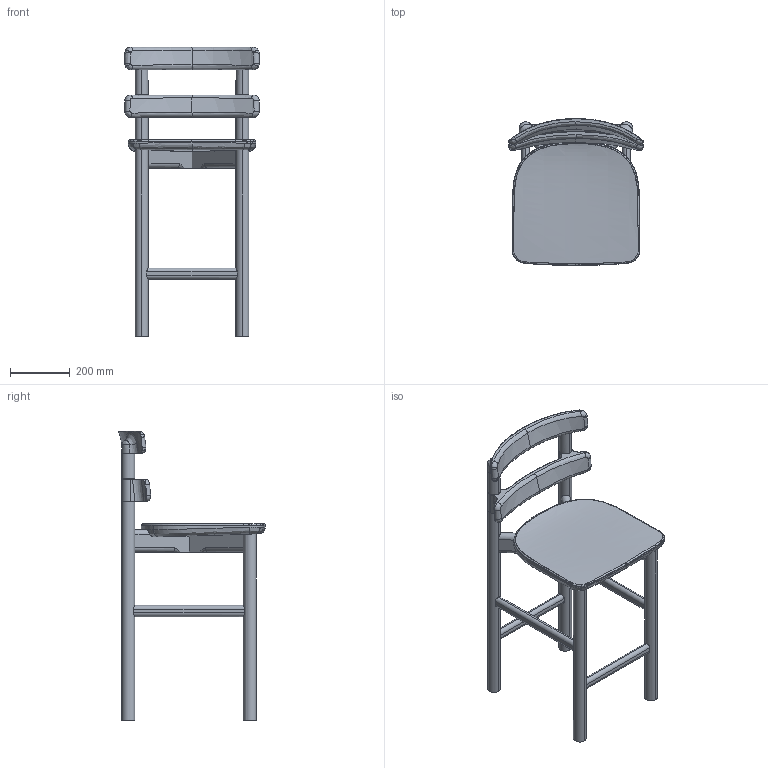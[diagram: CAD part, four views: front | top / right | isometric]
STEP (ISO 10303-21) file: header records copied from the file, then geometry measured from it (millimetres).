
FILE_DESCRIPTION(/* description */ (''),/* implementation_level */ '2;1');
FILE_NAME(/* name */ 'SISTA_tabouret tapissé_650',/* time_stamp */ '2026-06-03T11:20:43+02:00',/* author */ (''),/* organization */ (''),/* preprocessor_version */ 'ST-DEVELOPER v19.2',/* originating_system */ 'Rhino 8.31',/* authorisation */ '');
FILE_SCHEMA (('CONFIG_CONTROL_DESIGN'));
Length unit declared in the file: millimetre
Products named in the file (1): Document
Bounding box: 450 x 491.29 x 970 mm (x, y, z)
Volume: 9200253.8 mm3; surface area: 1406265.5 mm2
Topology: 16 solids, 19 shells, 469 faces, 1064 edges, 623 vertices
Faces by surface type: bspline 266, cylinder 128, plane 75
Entity records: 131002 total; most frequent: CARTESIAN_POINT 122351, ORIENTED_EDGE 2075, EDGE_CURVE 1045, DIRECTION 977, B_SPLINE_CURVE_WITH_KNOTS 659, VERTEX_POINT 616, AXIS2_PLACEMENT_3D 588, EDGE_LOOP 466
